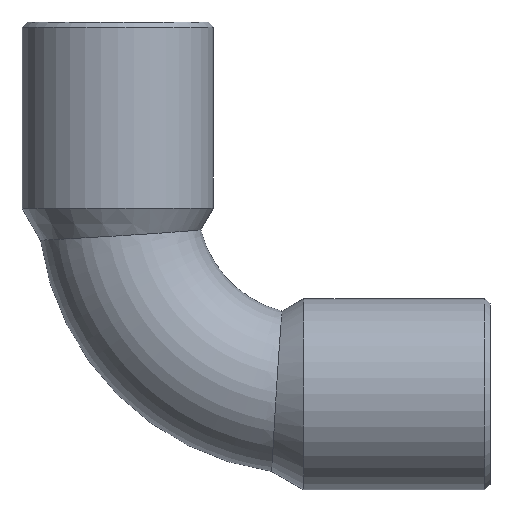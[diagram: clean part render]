
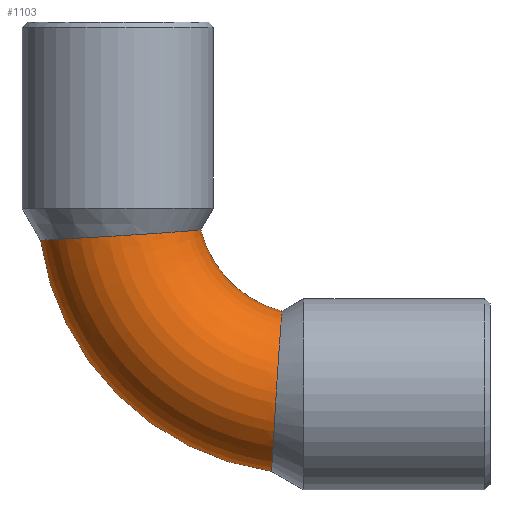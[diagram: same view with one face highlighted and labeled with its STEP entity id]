
A CAD part, front view. The second image highlights one B-rep face of the part: STEP entity #1103.
In plain terms, the highlighted toroidal (fillet/blend) face has major radius 7.2 mm and minor radius 3 mm.
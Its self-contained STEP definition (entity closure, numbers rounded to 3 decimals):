
#49=CARTESIAN_POINT('',(11.933,0.,-1.408));
#50=VERTEX_POINT('',#49);
#51=CARTESIAN_POINT('',(20.627,0.,-10.102));
#52=VERTEX_POINT('',#51);
#53=CARTESIAN_POINT('',(22.035,0.,0.0));
#54=DIRECTION('',(0.0,-1.0,0.0));
#55=DIRECTION('',(0.0,0.0,-1.0));
#56=AXIS2_PLACEMENT_3D('',#53,#54,#55);
#57=CIRCLE('',#56,10.2);
#58=EDGE_CURVE('',#50,#52,#57,.T.);
#60=CARTESIAN_POINT('',(17.961,0.,-1.021));
#61=VERTEX_POINT('',#60);
#85=CARTESIAN_POINT('',(21.014,0.,-4.074));
#86=VERTEX_POINT('',#85);
#87=CARTESIAN_POINT('',(22.035,0.,0.0));
#88=DIRECTION('',(0.0,1.0,0.0));
#89=DIRECTION('',(0.0,0.0,-1.0));
#90=AXIS2_PLACEMENT_3D('',#87,#88,#89);
#91=CIRCLE('',#90,4.2);
#92=EDGE_CURVE('',#86,#61,#91,.T.);
#224=CARTESIAN_POINT('',(17.961,0.,-1.021));
#225=CARTESIAN_POINT('',(17.961,-0.035,-1.021));
#226=CARTESIAN_POINT('',(17.96,-0.071,-1.021));
#227=CARTESIAN_POINT('',(17.945,-0.499,-1.022));
#228=CARTESIAN_POINT('',(17.853,-0.886,-1.03));
#229=CARTESIAN_POINT('',(17.521,-1.608,-1.057));
#230=CARTESIAN_POINT('',(17.282,-1.935,-1.076));
#231=CARTESIAN_POINT('',(16.698,-2.47,-1.12));
#232=CARTESIAN_POINT('',(16.36,-2.676,-1.144));
#233=CARTESIAN_POINT('',(15.631,-2.946,-1.193));
#234=CARTESIAN_POINT('',(15.245,-3.01,-1.217));
#235=CARTESIAN_POINT('',(14.472,-2.988,-1.265));
#236=CARTESIAN_POINT('',(14.091,-2.904,-1.287));
#237=CARTESIAN_POINT('',(13.382,-2.595,-1.328));
#238=CARTESIAN_POINT('',(13.06,-2.374,-1.346));
#239=CARTESIAN_POINT('',(12.518,-1.82,-1.376));
#240=CARTESIAN_POINT('',(12.303,-1.493,-1.388));
#241=CARTESIAN_POINT('',(12.009,-0.774,-1.404));
#242=CARTESIAN_POINT('',(11.933,-0.389,-1.408));
#243=CARTESIAN_POINT('',(11.933,0.,-1.408));
#244=B_SPLINE_CURVE_WITH_KNOTS('',3,(#224,#225,#226,#227,#228,#229,#230,#231,#232,#233,#234,#235,#236,#237,#238,#239,#240,#241,#242,#243),.UNSPECIFIED.,.F.,.U.,(4,2,2,2,2,2,2,2,2,4),(-0.948,-0.938,-0.82,-0.699,-0.582,-0.465,-0.349,-0.233,-0.117,0.0),.UNSPECIFIED.);
#245=EDGE_CURVE('',#61,#50,#244,.T.);
#1052=CARTESIAN_POINT('',(20.627,0.,-10.102));
#1053=CARTESIAN_POINT('',(20.627,-0.217,-10.102));
#1054=CARTESIAN_POINT('',(20.628,-0.434,-10.079));
#1055=CARTESIAN_POINT('',(20.633,-0.858,-9.985));
#1056=CARTESIAN_POINT('',(20.637,-1.064,-9.915));
#1057=CARTESIAN_POINT('',(20.651,-1.618,-9.658));
#1058=CARTESIAN_POINT('',(20.664,-1.939,-9.423));
#1059=CARTESIAN_POINT('',(20.696,-2.476,-8.84));
#1060=CARTESIAN_POINT('',(20.716,-2.684,-8.496));
#1061=CARTESIAN_POINT('',(20.76,-2.957,-7.742));
#1062=CARTESIAN_POINT('',(20.784,-3.017,-7.34));
#1063=CARTESIAN_POINT('',(20.834,-2.975,-6.536));
#1064=CARTESIAN_POINT('',(20.859,-2.875,-6.143));
#1065=CARTESIAN_POINT('',(20.909,-2.532,-5.429));
#1066=CARTESIAN_POINT('',(20.932,-2.296,-5.113));
#1067=CARTESIAN_POINT('',(20.971,-1.729,-4.599));
#1068=CARTESIAN_POINT('',(20.987,-1.407,-4.401));
#1069=CARTESIAN_POINT('',(21.008,-0.718,-4.14));
#1070=CARTESIAN_POINT('',(21.014,-0.361,-4.074));
#1071=CARTESIAN_POINT('',(21.014,0.,-4.074));
#1072=B_SPLINE_CURVE_WITH_KNOTS('',3,(#1052,#1053,#1054,#1055,#1056,#1057,#1058,#1059,#1060,#1061,#1062,#1063,#1064,#1065,#1066,#1067,#1068,#1069,#1070,#1071),.UNSPECIFIED.,.F.,.U.,(4,2,2,2,2,2,2,2,2,4),(-1.897,-1.832,-1.767,-1.648,-1.529,-1.407,-1.287,-1.169,-1.057,-0.948),.UNSPECIFIED.);
#1073=EDGE_CURVE('',#52,#86,#1072,.T.);
#1092=CARTESIAN_POINT('',(22.035,0.,0.0));
#1093=DIRECTION('',(0.0,-1.0,0.0));
#1094=DIRECTION('',(0.0,0.0,-1.0));
#1095=AXIS2_PLACEMENT_3D('',#1092,#1093,#1094);
#1096=TOROIDAL_SURFACE('',#1095,7.2,3.);
#1097=ORIENTED_EDGE('',*,*,#58,.T.);
#1098=ORIENTED_EDGE('',*,*,#1073,.T.);
#1099=ORIENTED_EDGE('',*,*,#92,.T.);
#1100=ORIENTED_EDGE('',*,*,#245,.T.);
#1101=EDGE_LOOP('',(#1097,#1098,#1099,#1100));
#1102=FACE_OUTER_BOUND('',#1101,.T.);
#1103=ADVANCED_FACE('',(#1102),#1096,.T.);
